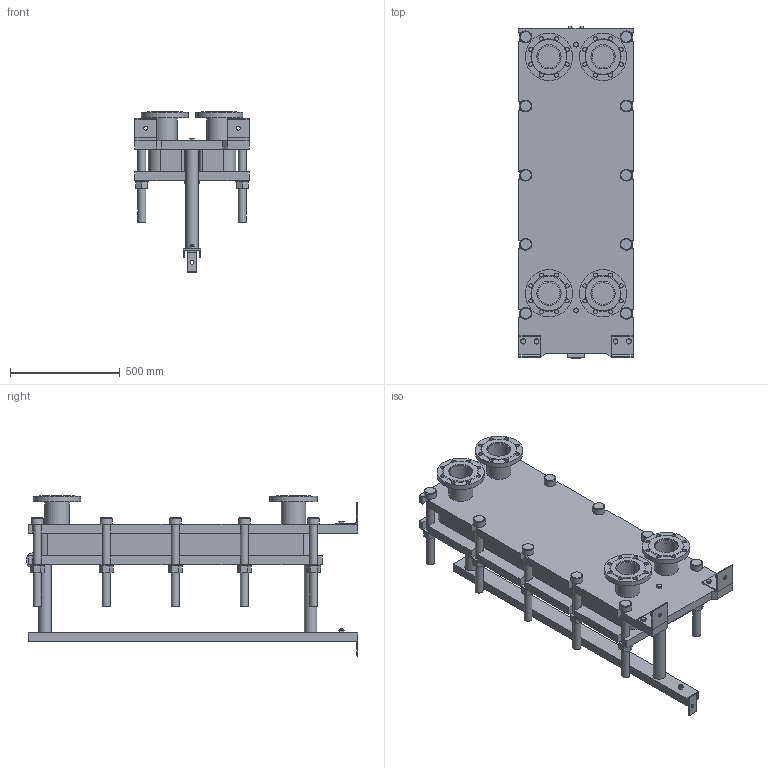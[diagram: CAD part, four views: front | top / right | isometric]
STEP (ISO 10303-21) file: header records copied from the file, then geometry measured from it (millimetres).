
FILE_DESCRIPTION(/* description */ (''),/* implementation_level */ '2;1');
FILE_NAME(/* name */ 'C:\Users\zhuro\Desktop\ENCO\TO\ЭН-04\ЭН-0,5-04-30-1.stp',/* time_stamp */ '2022-06-06T10:46:34+03:00',/* author */ ('zhuro'),/* organization */ (''),/* preprocessor_version */ 'ST-DEVELOPER v18.1',/* originating_system */ 'Autodesk Inventor 2022',/* authorisation */ '');
FILE_SCHEMA (('AUTOMOTIVE_DESIGN { 1 0 10303 214 3 1 1 }'));
Length unit declared in the file: millimetre
Products named in the file (1): ЭН-0,5-04-30-1
Bounding box: 520 x 1510 x 730 mm (x, y, z)
Volume: 119162390.3 mm3; surface area: 6815955.3 mm2
Topology: 45 solids, 45 shells, 668 faces, 1611 edges, 1048 vertices
Faces by surface type: plane 457, cylinder 166, cone 39, torus 6
Full cylindrical faces by diameter (mm): 8 x4, 10 x2, 16 x8, 18 x35, 36 x25, 40 x2, 42 x1, 45 x4, 54 x10, 57 x2, 60 x10, 68 x2, 100 x4, 110 x8, 215 x4
Entity records: 23607 total; most frequent: CARTESIAN_POINT 7348, DIRECTION 3371, ORIENTED_EDGE 3142, EDGE_CURVE 1571, AXIS2_PLACEMENT_3D 1199, VERTEX_POINT 1044, LINE 973, VECTOR 973
